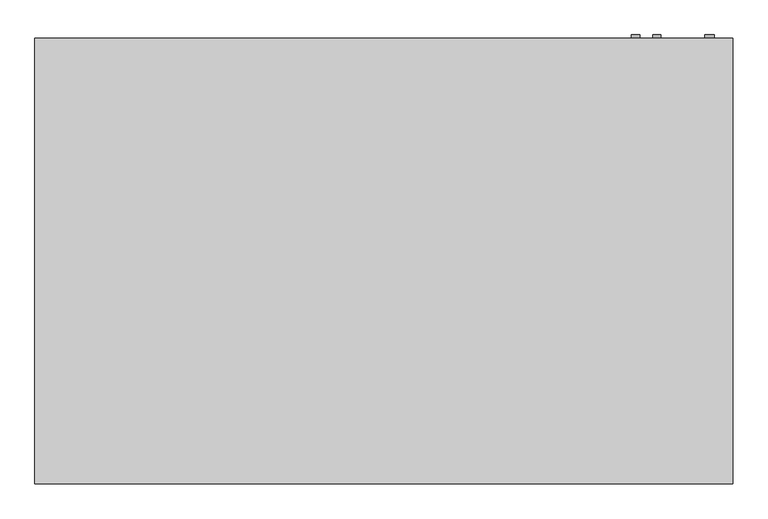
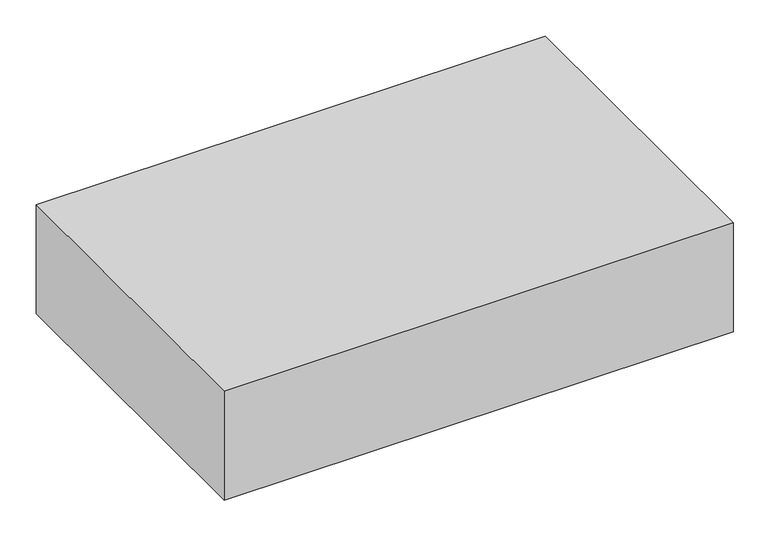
"""IFC4 building model written with IfcOpenShell, lengths in millimetres: proxy geometry, Exposed_Horizontal_Fan_Coil_Unit_-_42CGB_-_CARRIER_-_2-Pipe_Cool-EHeat_BS-BR_RH_2022 : Size 06 - 277v/60Hz/1Ph - 4 Row 6.0kW."""

from ifc_helpers import new_model, si_unit, point, frame, frame_2d, origin, place, context, project, spatial, polyline, circle_curve, trimmed, segment, composite_curve, outline, extrude, source, transform, mapped, element, save


def mechanical_equipment_b646ea03(model_context):
    return source(origin(), model_context, "Body", "SweptSolid", [
        extrude(outline(polyline([(592.1375, -439.7375), (592.1375, -611.1875), (-287.3375, -611.1875), (-287.3375, -439.7375), (592.1375, -439.7375)])), frame((0.0, 0.0, -311.15), z_axis=(0.0, 0.0, 1.0), x_axis=(1.0, 0.0, 0.0)), (0.0, 0.0, 1.0), 6.35),
        extrude(outline(composite_curve([segment(trimmed(circle_curve(frame_2d((-60.325, 638.175)), 7.9375), [point((-60.325, 646.1125))], [point((-60.325, 630.2375))], False, "CARTESIAN"), True, "CONTINUOUS"), segment(trimmed(circle_curve(frame_2d((-60.325, 638.175)), 7.9375), [point((-60.325, 630.2375))], [point((-60.325, 646.1125))], False, "CARTESIAN"), True, "CONTINUOUS")], self_intersect=False)), frame((0.0, 192.0875, 0.0), z_axis=(0.0, 1.0, 0.0), x_axis=(0.0, 0.0, 1.0)), (0.0, 0.0, 1.0), 6.35),
        extrude(outline(composite_curve([segment(trimmed(circle_curve(frame_2d((-95.25, 679.45)), 7.9375), [point((-95.25, 687.3875))], [point((-95.25, 671.5125))], False, "CARTESIAN"), True, "CONTINUOUS"), segment(trimmed(circle_curve(frame_2d((-95.25, 679.45)), 7.9375), [point((-95.25, 671.5125))], [point((-95.25, 687.3875))], False, "CARTESIAN"), True, "CONTINUOUS")], self_intersect=False)), frame((0.0, 192.0875, 0.0), z_axis=(0.0, 1.0, 0.0), x_axis=(0.0, 0.0, 1.0)), (0.0, 0.0, 1.0), 6.35),
        extrude(outline(composite_curve([segment(trimmed(circle_curve(frame_2d((-260.35, 781.05)), 9.525), [point((-260.35, 790.575))], [point((-260.35, 771.525))], False, "CARTESIAN"), True, "CONTINUOUS"), segment(trimmed(circle_curve(frame_2d((-260.35, 781.05)), 9.525), [point((-260.35, 771.525))], [point((-260.35, 790.575))], False, "CARTESIAN"), True, "CONTINUOUS")], self_intersect=False)), frame((0.0, 192.0875, 0.0), z_axis=(0.0, 1.0, 0.0), x_axis=(0.0, 0.0, 1.0)), (0.0, 0.0, 1.0), 6.35),
        extrude(outline(polyline([(-520.7, 192.0875), (825.5, 192.0875), (825.5, -668.3375), (-520.7, -668.3375), (-520.7, 192.0875)])), frame((0.0, 0.0, -304.8), z_axis=(0.0, 0.0, 1.0), x_axis=(1.0, 0.0, 0.0)), (0.0, 0.0, 1.0), 304.8),
        extrude(outline(polyline([(622.3, 115.8875), (622.3, -138.1125), (-317.5, -138.1125), (-317.5, 115.8875), (622.3, 115.8875)])), frame((0.0, 0.0, -311.15), z_axis=(0.0, 0.0, 1.0), x_axis=(1.0, 0.0, 0.0)), (0.0, 0.0, 1.0), 6.35),
    ])


if __name__ == "__main__":
    model = new_model("IFC4")
    model_context = context("Model", 3, world=origin())
    ifc_project = project(units=[si_unit("LENGTHUNIT", "METRE", prefix="MILLI")], contexts=[model_context])
    site = spatial("IfcSite", under=ifc_project)
    building = spatial("IfcBuilding", under=site)
    placement = place(None, origin())
    mechanical_equipment_shape = mechanical_equipment_b646ea03(model_context)
    element("IfcBuildingElementProxy", 1, Name="Exposed_Horizontal_Fan_Coil_Unit_-_42CGB_-_CARRIER_-_2-Pipe_Cool-EHeat_BS-BR_RH_2022 : Size 06 - 277v/60Hz/1Ph - 4 Row 6.0kW", ObjectType="Exposed_Horizontal_Fan_Coil_Unit_-_42CGB_-_CARRIER_-_2-Pipe_Cool-EHeat_BS-BR_RH_2022 : Size 06 - 277v/60Hz/1Ph - 4 Row 6.0kW", at=placement, inside=building, context=model_context, shape_type="MappedRepresentation", body=[
        mapped(mechanical_equipment_shape, transform((0.0, 0.0, 0.0), x_axis=(1.0, 0.0, 0.0), y_axis=(0.0, 1.0, 0.0), z_axis=(0.0, 0.0, 1.0))),
    ])
    save(model, "model.ifc")
